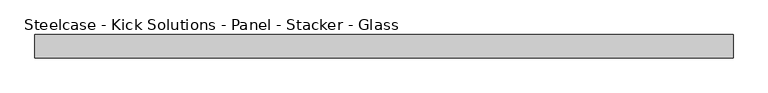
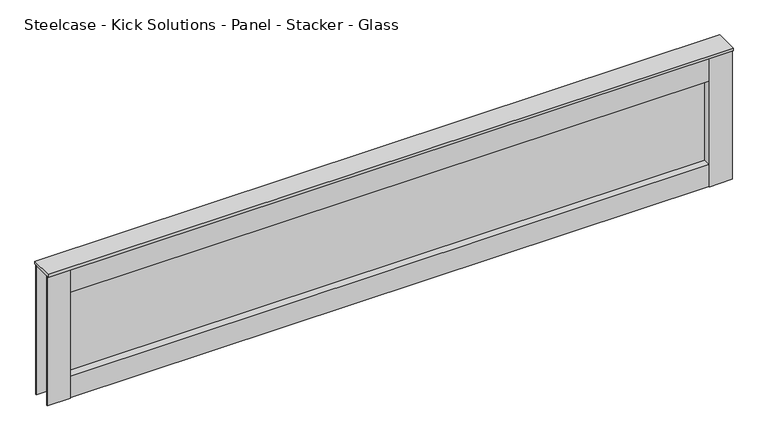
"""IFC4 building model written with IfcOpenShell, lengths in millimetres: furniture geometry, Steelcase - Kick Solutions - Panel - Stacker - Glass : 12H x 60W."""

from ifc_helpers import new_model, si_unit, frame, origin, place, context, project, spatial, polyline, outline, extrude, source, transform, mapped, element, save


def steelcase_kick_solutions_panel_stacker_glass_a9127999(model_context):
    return source(origin(), model_context, "Body", "SweptSolid", [
        extrude(outline(polyline([(1473.2006661, -5.08), (1473.2006661, -45.7200015), (50.8006646, -45.7200015), (50.8006646, -5.08), (1473.2006661, -5.08)])), frame((0.0, 0.0, 1066.8), z_axis=(0.0, 0.0, 1.0), x_axis=(1.0, 0.0, 0.0)), (0.0, 0.0, 1.0), 50.6830951),
        extrude(outline(polyline([(1473.2006661, -5.08), (1473.2006661, -45.7200015), (50.8006646, -45.7200015), (50.8006646, -5.08), (1473.2006661, -5.08)])), frame((0.0, 0.0, 1314.45), z_axis=(0.0, 0.0, 1.0), x_axis=(1.0, 0.0, 0.0)), (0.0, 0.0, 1.0), 57.15),
        extrude(outline(polyline([(50.8006646, -3.1743148), (50.8006646, -47.6243142), (0.0, -47.6243142), (0.0, -45.7200015), (47.7526646, -45.7200015), (47.7526646, -5.08), (0.0, -5.08), (0.0, -3.1743148), (50.8006646, -3.1743148)])), frame((0.0, 0.0, 1066.8), z_axis=(0.0, 0.0, 1.0), x_axis=(1.0, 0.0, 0.0)), (0.0, 0.0, 1.0), 304.8),
        extrude(outline(polyline([(1473.2006661, -3.1743148), (1524.0, -3.1743148), (1524.0, -5.08), (1476.2486661, -5.08), (1476.2486661, -45.7200015), (1524.0, -45.7200015), (1524.0, -47.6243142), (1473.2006661, -47.6243142), (1473.2006661, -3.1743148)])), frame((0.0, 0.0, 1066.8), z_axis=(0.0, 0.0, 1.0), x_axis=(1.0, 0.0, 0.0)), (0.0, 0.0, 1.0), 304.8),
        extrude(outline(polyline([(1473.2006661, -28.422537), (50.8006646, -28.422537), (50.8006646, -25.4), (1473.2006661, -25.4), (1473.2006661, -28.422537)])), frame((0.0, 0.0, 1117.4830951), z_axis=(0.0, 0.0, 1.0), x_axis=(1.0, 0.0, 0.0)), (0.0, 0.0, 1.0), 196.9669049),
        extrude(outline(polyline([(1524.0, 0.0), (1524.0, -50.8000015), (0.0, -50.8000015), (0.0, 0.0), (1524.0, 0.0)])), frame((0.0, 0.0, 1371.6), z_axis=(0.0, 0.0, 1.0), x_axis=(1.0, 0.0, 0.0)), (0.0, 0.0, 1.0), 6.35),
    ])


if __name__ == "__main__":
    model = new_model("IFC4")
    model_context = context("Model", 3, world=origin())
    ifc_project = project(units=[si_unit("LENGTHUNIT", "METRE", prefix="MILLI")], contexts=[model_context])
    site = spatial("IfcSite", under=ifc_project)
    building = spatial("IfcBuilding", under=site)
    placement = place(None, origin())
    steelcase_kick_solutions_panel_stacker_glass_shape = steelcase_kick_solutions_panel_stacker_glass_a9127999(model_context)
    element("IfcFurniture", 1, ObjectType="Steelcase - Kick Solutions - Panel - Stacker - Glass : 12H x 60W", at=placement, inside=building, context=model_context, shape_type="MappedRepresentation", body=[
        mapped(steelcase_kick_solutions_panel_stacker_glass_shape, transform((0.0, 0.0, 0.0), x_axis=(1.0, 0.0, 0.0), y_axis=(0.0, 1.0, 0.0), z_axis=(0.0, 0.0, 1.0))),
    ])
    save(model, "model.ifc")
